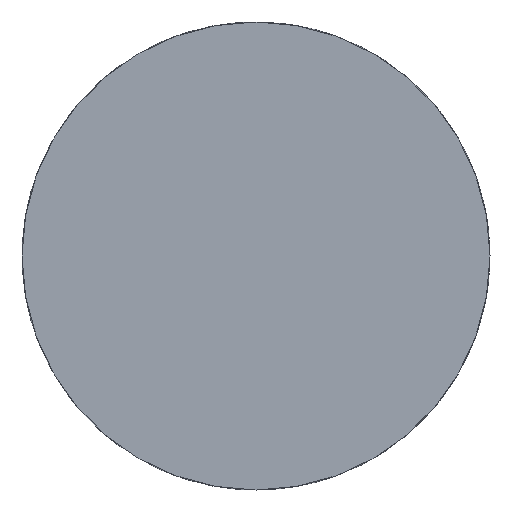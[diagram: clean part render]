
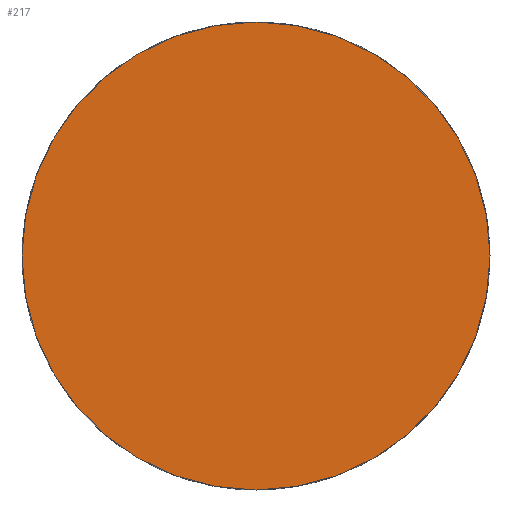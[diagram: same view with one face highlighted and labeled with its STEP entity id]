
A CAD part, left-side view. The second image highlights one B-rep face of the part: STEP entity #217.
In plain terms, the highlighted planar face has unit normal (-1, 0, 0).
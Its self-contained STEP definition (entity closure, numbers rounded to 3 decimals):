
#217 = ADVANCED_FACE( '', ( #563 ), #564, .F. );
#563 = FACE_OUTER_BOUND( '', #1036, .T. );
#564 = PLANE( '', #1037 );
#1036 = EDGE_LOOP( '', ( #1610 ) );
#1037 = AXIS2_PLACEMENT_3D( '', #1611, #1612, #1613 );
#1610 = ORIENTED_EDGE( '', *, *, #3083, .F. );
#1611 = CARTESIAN_POINT( '', ( 0., 0., 0. ) );
#1612 = DIRECTION( '', ( 1., 0., 0. ) );
#1613 = DIRECTION( '', ( 0., 0., -1. ) );
#3083 = EDGE_CURVE( '', #3775, #3775, #3776, .T. );
#3775 = VERTEX_POINT( '', #4743 );
#3776 = CIRCLE( '', #4744, 8.69 );
#4743 = CARTESIAN_POINT( '', ( 0., 0., -8.69 ) );
#4744 = AXIS2_PLACEMENT_3D( '', #5841, #5842, #5843 );
#5841 = CARTESIAN_POINT( '', ( 0., 0., 0. ) );
#5842 = DIRECTION( '', ( 1., 0., 0. ) );
#5843 = DIRECTION( '', ( 0., 0., -1. ) );
